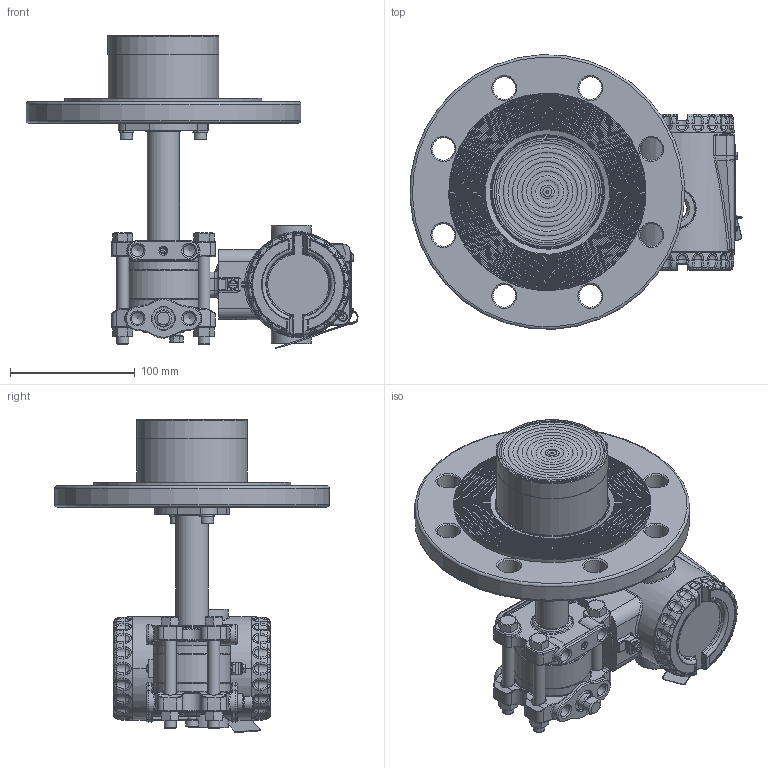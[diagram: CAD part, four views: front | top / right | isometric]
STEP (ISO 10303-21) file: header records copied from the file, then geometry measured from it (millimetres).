
FILE_DESCRIPTION(/* description */ (''),/* implementation_level */ '2;1');
FILE_NAME(/* name */ 'F:\Area\Desenvolvimento_2\Projects\Sensor\projetos\LD400-3d\dimensionais 3D clientes\LD400L\LD400L DN100 PN16 RF ext 50 ref 1-4NPT purga acima.stp',/* time_stamp */ '2023-02-23T17:22:48-03:00',/* author */ ('inventor02'),/* organization */ (''),/* preprocessor_version */ 'ST-DEVELOPER v17',/* originating_system */ 'Autodesk Inventor 2019',/* authorisation */ '');
FILE_SCHEMA (('CONFIG_CONTROL_DESIGN'));
Products named in the file (41): LD30XL DN100 PN16 RF ext 50 ref 1-4NPT purga acima; 204-0301-L-DN100 PN16 RF ext 50 purga acima; nivel fx3 com baixa diferencial 1-4NPT purga acima; involucro fx0-3 apos a usinagem final; flange diferencial std purga; 101-C-7484-01 flange selo nivel VR; 201-A-0504-tubo união teste 1; bujao 1-4NPT; Sangria; Porca 3-8 x 16 UNC; Paraf. 3-8 x 16 UNC; adaptação tubo x flanges 1-1-2 a 4pol; 101-B-0161-anel cortado do tubo - teste1; 101-B-0162-flange fixação tubo; ANSI B18.3.1M - M6x1 x 16; DIN 127 - A 6; flange DN100 PN16 ext 50; 096-B-0212-15; 101-B-7702-02 ext 4-50; 101-C-0141-09; Carcaça 400 com tampas e plaqueta sem letras; 101-D-0845-05 carcaça LD400 sem letras; 101-B-3614-03-tampa 400 sem letras; Tampa visor 400 montada sem letras; 101-B-3612-05 tampa visor 400 sem letras; 101-A-6107; oring 2034; 00034775-0; WHW_250; DIN 915 - M6 x 10; Chapa aterramento externo; 201-A-1771-02 inserto terra recartilhado; AS 1969 - ST4,2; ISO 1207 - M4 x 8; ANSI B18.3.1M - M4x0,7 x 8; Subconjunto plaqueta 400; plaqueta 400 em branco; Parafuso da Plaqueta; Rebite da Plaqueta; 096-A-0169-03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
Assembly tree (50 placements, depth 4):
  LD30XL DN100 PN16 RF ext 50 ref 1-4NPT purga acima
    204-0301-L-DN100 PN16 RF ext 50 purga acima
      nivel fx3 com baixa diferencial 1-4NPT purga acima
        involucro fx0-3 apos a usinagem final
        flange diferencial std purga
        101-C-7484-01 flange selo nivel VR
        201-A-0504-tubo união teste 1
        DIN 915 - M6 x 10
        bujao 1-4NPT
        Sangria
        Porca 3-8 x 16 UNC  x4
        Paraf. 3-8 x 16 UNC  x4
      adaptação tubo x flanges 1-1-2 a 4pol
        101-B-0161-anel cortado do tubo - teste1
        101-B-0162-flange fixação tubo
        ANSI B18.3.1M - M6x1 x 16  x2
        DIN 127 - A 6  x2
      flange DN100 PN16 ext 50
        096-B-0212-15
        101-B-7702-02 ext 4-50
        101-C-0141-09
    Carcaça 400 com tampas e plaqueta sem letras
      101-D-0845-05 carcaça LD400 sem letras
      101-B-3614-03-tampa 400 sem letras
      Tampa visor 400 montada sem letras
        101-B-3612-05 tampa visor 400 sem letras
        101-A-6107
        oring 2034
        00034775-0
        WHW_250
      DIN 915 - M6 x 10
      Chapa aterramento externo
      201-A-1771-02 inserto terra recartilhado
      AS 1969 - ST4,2
      ISO 1207 - M4 x 8
      ANSI B18.3.1M - M4x0,7 x 8  x2
      Subconjunto plaqueta 400
        plaqueta 400 em branco
        Parafuso da Plaqueta
        Rebite da Plaqueta
        096-A-0169-03
        101-A-0502-01
Bounding box: 265.64 x 219.79 x 250.42 mm (x, y, z)
Volume: 1432389.6 mm3; surface area: 390886.3 mm2
Topology: 43 solids, 43 shells, 2834 faces, 6836 edges, 4113 vertices
Faces by surface type: plane 751, cylinder 668, bspline 604, torus 505, cone 230, sphere 76
Full cylindrical faces by diameter (mm): 2 x4, 2.1 x1, 2.2 x1, 2.459 x3, 2.5 x1, 2.7 x1, 2.8 x1, 3 x4, 3.242 x3, 3.5 x1, 3.571 x1, 4 x5, 4.3 x2, 4.4 x1, 4.917 x4, 5 x1, 5.5 x3, 6 x6, 6.1 x2, 6.2 x1, 6.647 x1, 7 x5, 7.6 x2, 7.798 x4, 8 x1, 9.525 x4, 9.728 x6, 10 x2, 10.5 x8, 10.719 x2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
Entity records: 100431 total; most frequent: CARTESIAN_POINT 37345, DIRECTION 13072, ORIENTED_EDGE 12912, EDGE_CURVE 6456, AXIS2_PLACEMENT_3D 5619, VERTEX_POINT 3919, CIRCLE 3272, EDGE_LOOP 2907
